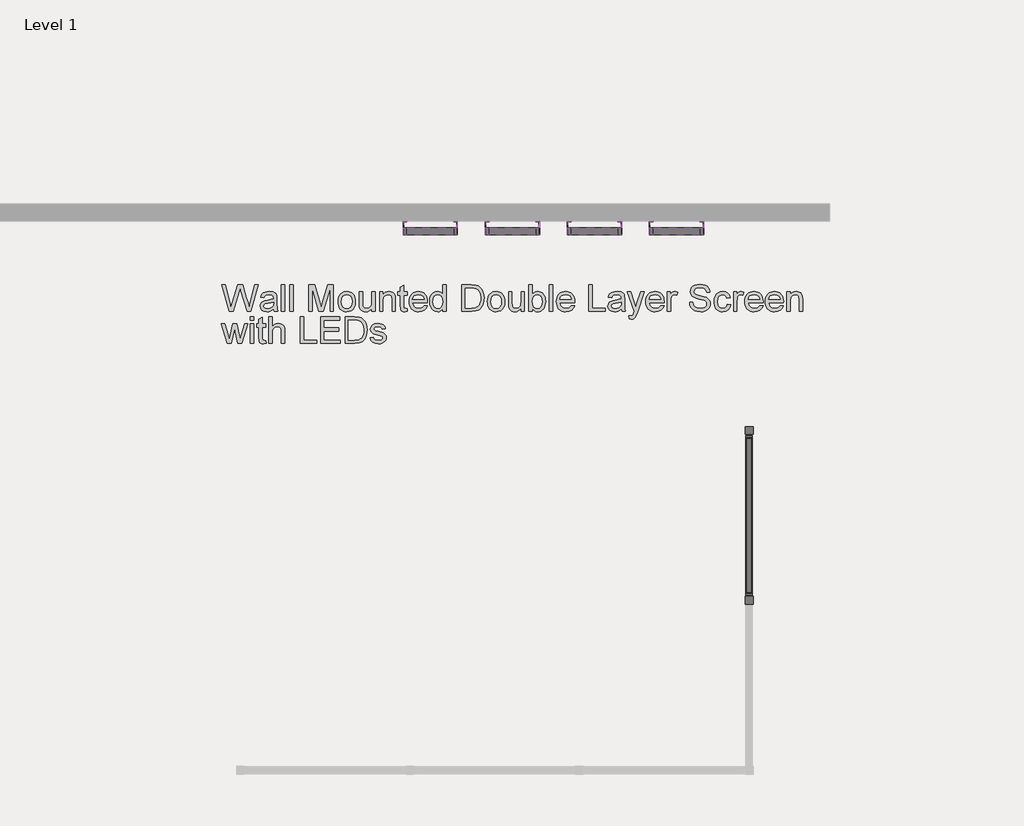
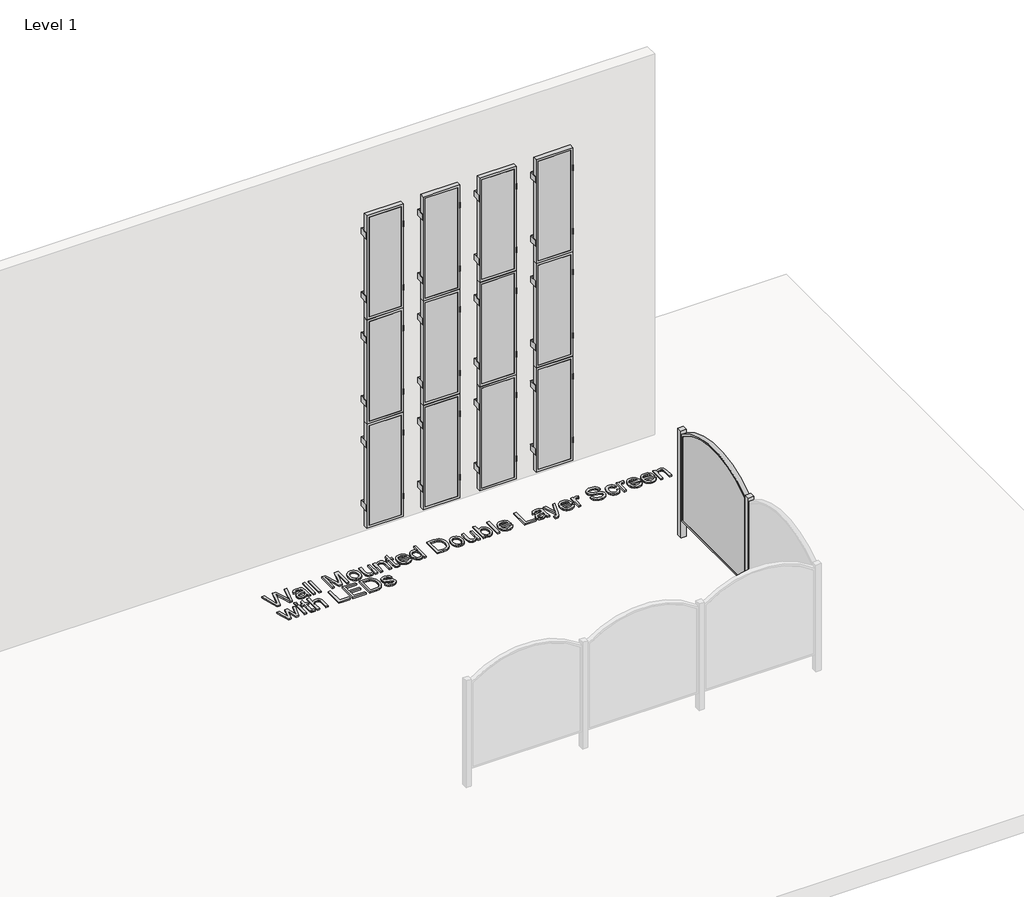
# One storey, part 4 of 4: 14 proxies.
"""IFC4 building model written with IfcOpenShell, lengths in millimetres."""

from ifc_helpers import new_model, si_unit, origin, origin_with_axes, place, context, project, spatial, polyline, outline, extrude, transform, mapped, element, save
from components import post_mounted_36181113, wall_mount_double_layer_2x6_20bcc1c5

model = new_model("IFC4")

# Units and contexts
model_context = context("Model", 3, world=origin())
ifc_project = project(units=[si_unit("LENGTHUNIT", "METRE", prefix="MILLI")], contexts=[model_context])

# Site, building, storey
site = spatial("IfcSite", under=ifc_project)
building = spatial("IfcBuilding", under=site)
storey = spatial("IfcBuildingStorey", under=building, Name="Level 1", Elevation=0.0)

# Proxies
placement = place(None, origin())
element("IfcBuildingElementProxy", 1, Name="12\" Arial", ObjectType="12\" Arial", at=placement, inside=storey, context=model_context, shape_type="SweptSolid", body=[
    extrude(outline(polyline([(1992.5195931, -5129.4015724), (1909.4625999, -4824.8344783), (1948.7232018, -4824.8344783), (1996.9066679, -5025.0040626), (2011.778108, -5086.7948964), (2027.690549, -5032.1423538), (2088.0685959, -4824.8344783), (2144.6544257, -4824.8344783), (2188.5251741, -4975.1103809), (2207.3189566, -5030.8782814), (2221.1679852, -5086.7948964), (2235.5932821, -5026.7886354), (2284.2228914, -4824.8344783), (2323.4834934, -4824.8344783), (2240.352143, -5129.4015724), (2199.6787542, -5129.4015724), (2126.6599831, -4894.4328181), (2116.4730466, -4861.6412926), (2105.0220377, -4901.1249662), (2038.4723431, -5129.4015724), (1992.5195931, -5129.4015724)])), origin_with_axes(), (0.0, 0.0, 1.0), 25.4),
    extrude(outline(polyline([(2499.5613446, -5100.8484073), (2481.3717144, -5116.4448301), (2462.6429945, -5126.6503559), (2442.9476309, -5132.2829139), (2421.8580699, -5134.1604332), (2390.0424826, -5129.6432333), (2366.5734912, -5116.0916334), (2352.101721, -5095.5132781), (2347.2777976, -5069.9158118), (2349.099549, -5054.1334959), (2354.5648033, -5039.8011455), (2362.9950509, -5027.5322074), (2373.7117824, -5017.9401285), (2400.3688389, -5005.4481188), (2433.3090788, -4999.7226143), (2472.2350734, -4993.6996811), (2499.338273, -4986.635747), (2499.5613446, -4978.1590261), (2496.9402533, -4961.1684058), (2489.0769793, -4950.0520043), (2471.4915014, -4941.798355), (2446.9908037, -4939.0471386), (2424.3118575, -4940.8781846), (2408.4737738, -4946.3713228), (2397.6733904, -4956.5303754), (2390.1075452, -4972.3591645), (2352.0366584, -4967.6003036), (2358.6451546, -4946.7802874), (2368.5067784, -4930.4217033), (2382.5417, -4917.9111043), (2401.6700899, -4908.6350435), (2425.0647242, -4902.8909497), (2451.898379, -4900.9762518), (2477.6352651, -4902.6678781), (2498.037022, -4907.7427571), (2513.4196679, -4915.3736648), (2524.0992209, -4924.7333774), (2531.1817442, -4936.3052168), (2535.7733014, -4950.5725047), (2537.6322314, -4983.8845306), (2537.6322314, -5031.2500674), (2539.5655186, -5097.3907975), (2547.1499531, -5129.4015724), (2509.0790663, -5129.4015724), (2502.9817759, -5116.1659906), (2499.5613446, -5100.8484073)]), holes=[polyline([(2499.5613446, -5024.7066338), (2438.1422968, -5036.3807143), (2405.3879499, -5042.5523619), (2390.5536884, -5052.590584), (2385.3486843, -5067.2389526), (2388.1835526, -5078.5598364), (2396.6881575, -5087.8358972), (2410.6766058, -5094.0261341), (2429.9630048, -5096.0895464), (2450.411235, -5093.8123572), (2468.4800347, -5086.9807894), (2483.1284033, -5076.9146833), (2493.3153398, -5064.9338793), (2497.8325397, -5052.590584), (2499.338273, -5035.4884279), (2499.5613446, -5024.7066338)])]), origin_with_axes(), (0.0, 0.0, 1.0), 25.4),
    extrude(outline(polyline([(2589.9797007, -5129.4015724), (2589.9797007, -4824.8344783), (2628.0505874, -4824.8344783), (2628.0505874, -5129.4015724), (2589.9797007, -5129.4015724)])), origin_with_axes(), (0.0, 0.0, 1.0), 25.4),
    extrude(outline(polyline([(2685.1569176, -5129.4015724), (2685.1569176, -4824.8344783), (2723.2278043, -4824.8344783), (2723.2278043, -5129.4015724), (2685.1569176, -5129.4015724)])), origin_with_axes(), (0.0, 0.0, 1.0), 25.4),
    extrude(outline(polyline([(2904.0645164, -5129.4015724), (2904.0645164, -4824.8344783), (2969.5732103, -4824.8344783), (3031.8845444, -5039.5037167), (3044.4509114, -5084.3411087), (3058.0582791, -5035.7858567), (3119.3286125, -4824.8344783), (3184.8373063, -4824.8344783), (3184.8373063, -5129.4015724), (3146.7664195, -5129.4015724), (3146.7664195, -4862.905365), (3070.25286, -5129.4015724), (3018.6489627, -5129.4015724), (2942.1354032, -4862.905365), (2942.1354032, -5129.4015724), (2904.0645164, -5129.4015724)])), origin_with_axes(), (0.0, 0.0, 1.0), 25.4),
    extrude(outline(polyline([(3237.1847756, -5017.5683425), (3239.2435406, -4988.6015655), (3245.4198355, -4963.6407827), (3255.7136605, -4942.6859941), (3270.1250155, -4925.7371996), (3284.6339643, -4914.904285), (3300.6486464, -4907.1664888), (3318.1690618, -4902.523811), (3337.1952105, -4900.9762518), (3358.198796, -4902.8607421), (3377.1900898, -4908.514213), (3394.1690919, -4917.9366646), (3409.1358022, -4931.1280967), (3421.3512961, -4947.6423662), (3430.0766488, -4967.03333), (3435.3118605, -4989.3009879), (3437.0569311, -5014.4453401), (3433.9711072, -5052.9066021), (3424.7136357, -5082.1847499), (3409.5540614, -5104.1108295), (3388.7619292, -5120.5158869), (3364.0660439, -5130.7492966), (3337.1952105, -5134.1604332), (3315.8849015, -5132.2829139), (3296.7170094, -5126.6503559), (3279.6915341, -5117.2627593), (3264.8084756, -5104.1201241), (3252.7231069, -5087.4455219), (3244.0907006, -5067.4620242), (3238.9112568, -5044.1696311), (3237.1847756, -5017.5683425)]), holes=[polyline([(3275.2556623, -5017.4939853), (3279.6613265, -5051.9492532), (3292.8783189, -5076.4964241), (3312.7688701, -5091.1912658), (3337.1952105, -5096.0895464), (3361.5100151, -5091.1633819), (3381.3633877, -5076.3848883), (3394.5803802, -5051.5124046), (3398.9860443, -5016.3042701), (3394.5524962, -4982.8528244), (3381.2518519, -4958.6402609), (3361.3705954, -4943.9454192), (3337.1952105, -4939.0471386), (3312.7688701, -4943.9268299), (3292.8783189, -4958.5659037), (3279.6613265, -4983.0573067), (3275.2556623, -5017.4939853)])]), origin_with_axes(), (0.0, 0.0, 1.0), 25.4),
    extrude(outline(polyline([(3622.652504, -5129.4015724), (3622.652504, -5090.9588996), (3608.8778326, -5109.8595705), (3592.8352665, -5123.3600498), (3574.5248058, -5131.4603374), (3553.9464506, -5134.1604332), (3535.4036236, -5132.2643246), (3518.1434584, -5126.5759987), (3503.6623936, -5118.0249206), (3493.4568678, -5107.5405553), (3486.5881214, -5094.8068847), (3482.1173947, -5079.5078907), (3479.8866787, -5044.1138632), (3479.8866787, -4905.7351126), (3517.9575654, -4905.7351126), (3517.9575654, -5026.1937778), (3520.2626386, -5065.0082365), (3525.8115447, -5077.9556841), (3535.3199718, -5087.7987186), (3548.1558836, -5094.0168395), (3563.6872438, -5096.0895464), (3580.1108906, -5093.9703662), (3595.4749471, -5087.6128256), (3608.1435552, -5077.6024874), (3616.4808563, -5064.5249147), (3621.1095921, -5046.614124), (3622.652504, -5022.1041317), (3622.652504, -4905.7351126), (3660.7233908, -4905.7351126), (3660.7233908, -5129.4015724), (3622.652504, -5129.4015724)])), origin_with_axes(), (0.0, 0.0, 1.0), 25.4),
    extrude(outline(polyline([(3713.0708601, -5129.4015724), (3713.0708601, -4905.7351126), (3751.1417468, -4905.7351126), (3751.1417468, -4936.9651369), (3764.3680339, -4921.2199997), (3780.2525909, -4909.9734731), (3798.7954178, -4903.2255571), (3819.9965147, -4900.9762518), (3838.7624132, -4902.7887086), (3855.9482212, -4908.2260789), (3870.2805716, -4916.6098533), (3880.4860974, -4927.2615223), (3891.8999277, -4955.2570083), (3893.9075722, -4992.0638227), (3893.9075722, -5129.4015724), (3855.8366854, -5129.4015724), (3855.8366854, -4997.1944695), (3851.4496106, -4963.5106576), (3845.380204, -4953.4817301), (3835.9461342, -4945.702108), (3823.8537944, -4940.7108809), (3809.8095782, -4939.0471386), (3787.5117126, -4942.7835879), (3768.5041532, -4953.9929359), (3760.9081004, -4963.1435189), (3755.4823484, -4975.6494706), (3751.1417468, -5010.72748), (3751.1417468, -5129.4015724), (3713.0708601, -5129.4015724)])), origin_with_axes(), (0.0, 0.0, 1.0), 25.4),
    extrude(outline(polyline([(4027.1556758, -5097.6510477), (4031.9145367, -5130.5169304), (4003.4357288, -5134.1604332), (3985.1624467, -5132.5803427), (3971.5364897, -5127.8400711), (3961.9072322, -5120.5344762), (3955.6240487, -5111.2584154), (3952.1664389, -5095.3273851), (3951.0139023, -5068.0568818), (3951.0139023, -4943.8059994), (3922.4607372, -4943.8059994), (3922.4607372, -4905.7351126), (3951.0139023, -4905.7351126), (3951.0139023, -4851.3799989), (3989.0847891, -4828.9984815), (3989.0847891, -4905.7351126), (4027.1556758, -4905.7351126), (4027.1556758, -4943.8059994), (3989.0847891, -4943.8059994), (3989.0847891, -5066.9415238), (3991.0924335, -5086.5718248), (3997.5986885, -5093.524223), (4010.5740201, -5096.0895464), (4027.1556758, -5097.6510477)])), origin_with_axes(), (0.0, 0.0, 1.0), 25.4),
    extrude(outline(polyline([(4221.8228272, -5062.7775205), (4259.150142, -5067.5363814), (4245.7007833, -5095.6619925), (4224.2394363, -5116.686491), (4195.2494226, -5129.7919477), (4159.2140643, -5134.1604332), (4135.5917111, -5132.2759429), (4114.5439759, -5126.622472), (4096.0708589, -5117.2000205), (4080.1723599, -5104.0085883), (4067.3875687, -5087.4153142), (4058.255575, -5067.7873369), (4052.7763788, -5045.1246563), (4050.94998, -5019.4272725), (4052.7949681, -4992.8585152), (4058.3299322, -4969.4406443), (4067.5548724, -4949.1736598), (4080.4697887, -4932.0575617), (4096.3264618, -4918.4594886), (4114.3766722, -4908.7465793), (4134.6204201, -4902.9188337), (4157.0577054, -4900.9762518), (4178.7723317, -4902.9141863), (4198.4096037, -4908.72799), (4215.9695214, -4918.4176627), (4231.4520847, -4931.9832045), (4244.0904852, -4949.062124), (4253.1179141, -4969.2919299), (4258.5343714, -4992.6726222), (4260.3398572, -5019.2042009), (4260.1167856, -5029.4654946), (4089.0208668, -5029.4654946), (4095.6107737, -5057.9628918), (4110.9190624, -5078.9130331), (4133.0124457, -5091.7954181), (4159.9576363, -5096.0895464), (4180.2199735, -5094.1004913), (4197.284951, -5088.133326), (4211.1525689, -5077.8162644), (4221.8228272, -5062.7775205)]), holes=[polyline([(4089.0208668, -4991.3946079), (4222.2689704, -4991.3946079), (4217.1197343, -4971.2809851), (4207.0257443, -4956.8928667), (4184.8301199, -4943.5085706), (4156.908991, -4939.0471386), (4131.2464621, -4942.6069895), (4110.026776, -4953.2865425), (4095.2761663, -4969.9332608), (4089.0208668, -4991.3946079)])]), origin_with_axes(), (0.0, 0.0, 1.0), 25.4),
    extrude(outline(polyline([(4436.4177085, -5129.4015724), (4436.4177085, -5093.4870444), (4425.0271148, -5111.281652), (4411.2292067, -5123.992086), (4395.0239843, -5131.6183464), (4376.4114475, -5134.1604332), (4351.7992141, -5130.4797518), (4329.2689823, -5119.4377075), (4310.1963603, -5101.8057562), (4295.9569563, -5078.3553541), (4287.0898602, -5050.0345553), (4284.1341614, -5017.7914141), (4286.8574939, -4985.9479429), (4295.0274913, -4957.1902955), (4308.6348591, -4933.1543304), (4327.6703024, -4915.4759059), (4350.6931507, -4904.6011653), (4376.2627331, -4900.9762518), (4394.8892119, -4903.5694592), (4411.3593318, -4911.3490813), (4425.3198963, -4923.2741174), (4436.4177085, -4938.3035666), (4436.4177085, -4824.8344783), (4474.4885952, -4824.8344783), (4474.4885952, -5129.4015724), (4436.4177085, -5129.4015724)]), holes=[polyline([(4322.2050482, -5017.6426997), (4326.4991765, -5052.0793783), (4339.3815616, -5076.5707813), (4358.1009868, -5091.2098551), (4379.9062359, -5096.0895464), (4401.7021904, -5091.4329267), (4419.9475885, -5077.4630677), (4432.3001785, -5053.919719), (4436.4177085, -5020.5426305), (4432.2258213, -4984.0518343), (4419.6501597, -4958.7517967), (4400.9400291, -4943.9733031), (4378.3447347, -4939.0471386), (4356.316414, -4943.7781155), (4338.2662035, -4957.9710461), (4326.220337, -4982.3509133), (4322.2050482, -5017.6426997)])]), origin_with_axes(), (0.0, 0.0, 1.0), 25.4),
    extrude(outline(polyline([(4655.3253073, -5129.4015724), (4655.3253073, -4824.8344783), (4760.3920319, -4824.8344783), (4814.7471456, -4829.2215531), (4839.0247717, -4837.6796847), (4859.5101805, -4851.0082129), (4880.5718575, -4874.2076596), (4895.5734228, -4903.0582534), (4904.5520548, -4937.0023155), (4907.5449321, -4975.4821669), (4905.5186984, -5008.1714513), (4899.4399972, -5036.9383933), (4890.1825257, -5061.4297963), (4878.619981, -5081.2924635), (4865.3100421, -5096.9725382), (4850.810388, -5108.9161636), (4834.1636697, -5117.7739651), (4814.4125382, -5124.1965683), (4765.4483216, -5129.4015724), (4655.3253073, -5129.4015724)]), holes=[polyline([(4693.3961941, -5091.3306856), (4760.7638179, -5091.3306856), (4788.6291789, -5089.9550774), (4809.7652132, -5085.8282527), (4825.7148327, -5079.1918726), (4838.0209494, -5070.2875978), (4851.2472365, -5053.8081832), (4861.1832175, -5032.4769612), (4867.4013384, -5006.2009854), (4869.4740453, -4974.8873093), (4865.4122833, -4933.3959913), (4853.226997, -4902.7608246), (4835.2232598, -4881.7177368), (4813.7061448, -4869.0026555), (4791.8079492, -4864.4296877), (4759.7228171, -4862.905365), (4693.3961941, -4862.905365), (4693.3961941, -5091.3306856)])]), origin_with_axes(), (0.0, 0.0, 1.0), 25.4),
    extrude(outline(polyline([(4945.6158189, -5017.5683425), (4947.6745839, -4988.6015655), (4953.8508788, -4963.6407827), (4964.1447038, -4942.6859941), (4978.5560588, -4925.7371996), (4993.0650076, -4914.904285), (5009.0796897, -4907.1664888), (5026.6001051, -4902.523811), (5045.6262538, -4900.9762518), (5066.6298393, -4902.8607421), (5085.6211331, -4908.514213), (5102.6001352, -4917.9366646), (5117.5668455, -4931.1280967), (5129.7823394, -4947.6423662), (5138.5076921, -4967.03333), (5143.7429038, -4989.3009879), (5145.4879743, -5014.4453401), (5142.4021505, -5052.9066021), (5133.144679, -5082.1847499), (5117.9851047, -5104.1108295), (5097.1929725, -5120.5158869), (5072.4970872, -5130.7492966), (5045.6262538, -5134.1604332), (5024.3159448, -5132.2829139), (5005.1480527, -5126.6503559), (4988.1225774, -5117.2627593), (4973.2395189, -5104.1201241), (4961.1541501, -5087.4455219), (4952.5217439, -5067.4620242), (4947.3423001, -5044.1696311), (4945.6158189, -5017.5683425)]), holes=[polyline([(4983.6867056, -5017.4939853), (4988.0923698, -5051.9492532), (5001.3093622, -5076.4964241), (5021.1999134, -5091.1912658), (5045.6262538, -5096.0895464), (5069.9410584, -5091.1633819), (5089.794431, -5076.3848883), (5103.0114234, -5051.5124046), (5107.4170876, -5016.3042701), (5102.9835395, -4982.8528244), (5089.6828952, -4958.6402609), (5069.8016387, -4943.9454192), (5045.6262538, -4939.0471386), (5021.1999134, -4943.9268299), (5001.3093622, -4958.5659037), (4988.0923698, -4983.0573067), (4983.6867056, -5017.4939853)])]), origin_with_axes(), (0.0, 0.0, 1.0), 25.4),
    extrude(outline(polyline([(5331.0835473, -5129.4015724), (5331.0835473, -5090.9588996), (5317.3088759, -5109.8595705), (5301.2663098, -5123.3600498), (5282.9558491, -5131.4603374), (5262.3774938, -5134.1604332), (5243.8346669, -5132.2643246), (5226.5745017, -5126.5759987), (5212.0934369, -5118.0249206), (5201.8879111, -5107.5405553), (5195.0191647, -5094.8068847), (5190.548438, -5079.5078907), (5188.3177219, -5044.1138632), (5188.3177219, -4905.7351126), (5226.3886087, -4905.7351126), (5226.3886087, -5026.1937778), (5228.6936819, -5065.0082365), (5234.242588, -5077.9556841), (5243.7510151, -5087.7987186), (5256.5869268, -5094.0168395), (5272.1182871, -5096.0895464), (5288.5419338, -5093.9703662), (5303.9059904, -5087.6128256), (5316.5745985, -5077.6024874), (5324.9118996, -5064.5249147), (5329.5406354, -5046.614124), (5331.0835473, -5022.1041317), (5331.0835473, -4905.7351126), (5369.1544341, -4905.7351126), (5369.1544341, -5129.4015724), (5331.0835473, -5129.4015724)])), origin_with_axes(), (0.0, 0.0, 1.0), 25.4),
    extrude(outline(polyline([(5459.5727901, -5129.4015724), (5421.5019033, -5129.4015724), (5421.5019033, -4824.8344783), (5459.5727901, -4824.8344783), (5459.5727901, -4937.7830662), (5472.0926838, -4921.6800849), (5486.2298466, -4910.1779554), (5501.9842785, -4903.2766777), (5519.3559795, -4900.9762518), (5538.9676911, -4903.0489588), (5557.5012234, -4909.2670797), (5573.8969862, -4919.2402392), (5587.0953893, -4932.5780621), (5597.4403349, -4949.1504232), (5605.2757249, -4968.8271974), (5610.2111841, -4990.7904556), (5611.8563371, -5014.2222685), (5610.1530925, -5041.2604056), (5605.0433586, -5065.0454151), (5596.5271355, -5085.5772972), (5584.6044231, -5102.8560517), (5570.2929856, -5116.5517186), (5554.6105872, -5126.3343378), (5537.557228, -5132.2039094), (5519.1329079, -5134.1604332), (5501.1895859, -5131.6369357), (5485.2817922, -5124.0664432), (5471.409527, -5111.4489557), (5459.5727901, -5093.7844732), (5459.5727901, -5129.4015724)]), holes=[polyline([(5459.5727901, -5016.0068413), (5462.1752921, -5047.757366), (5469.9827982, -5069.246597), (5479.2077384, -5080.9903874), (5489.9291173, -5089.3788091), (5502.1469348, -5094.4118621), (5515.861191, -5096.0895464), (5537.8337438, -5091.1447926), (5556.608937, -5076.3105311), (5569.491322, -5051.6797083), (5573.7854504, -5017.3452709), (5569.6679204, -4982.5089224), (5557.3153304, -4958.1569391), (5539.1257002, -4943.8245887), (5517.4970494, -4939.0471386), (5495.5244966, -4943.9918924), (5476.7493035, -4958.8261539), (5463.8669184, -4983.0108335), (5459.5727901, -5016.0068413)])]), origin_with_axes(), (0.0, 0.0, 1.0), 25.4),
    extrude(outline(polyline([(5654.6860847, -5129.4015724), (5654.6860847, -4824.8344783), (5692.7569715, -4824.8344783), (5692.7569715, -5129.4015724), (5654.6860847, -5129.4015724)])), origin_with_axes(), (0.0, 0.0, 1.0), 25.4),
    extrude(outline(polyline([(5906.4595663, -5062.7775205), (5943.7868811, -5067.5363814), (5930.3375224, -5095.6619925), (5908.8761753, -5116.686491), (5879.8861617, -5129.7919477), (5843.8508033, -5134.1604332), (5820.2284501, -5132.2759429), (5799.180715, -5126.622472), (5780.707598, -5117.2000205), (5764.809099, -5104.0085883), (5752.0243078, -5087.4153142), (5742.8923141, -5067.7873369), (5737.4131178, -5045.1246563), (5735.5867191, -5019.4272725), (5737.4317071, -4992.8585152), (5742.9666713, -4969.4406443), (5752.1916115, -4949.1736598), (5765.1065278, -4932.0575617), (5780.9632008, -4918.4594886), (5799.0134113, -4908.7465793), (5819.2571592, -4902.9188337), (5841.6944445, -4900.9762518), (5863.4090708, -4902.9141863), (5883.0463427, -4908.72799), (5900.6062604, -4918.4176627), (5916.0888238, -4931.9832045), (5928.7272243, -4949.062124), (5937.7546532, -4969.2919299), (5943.1711105, -4992.6726222), (5944.9765963, -5019.2042009), (5944.7535247, -5029.4654946), (5773.6576059, -5029.4654946), (5780.2475128, -5057.9628918), (5795.5558015, -5078.9130331), (5817.6491847, -5091.7954181), (5844.5943753, -5096.0895464), (5864.8567125, -5094.1004913), (5881.9216901, -5088.133326), (5895.789308, -5077.8162644), (5906.4595663, -5062.7775205)]), holes=[polyline([(5773.6576059, -4991.3946079), (5906.9057095, -4991.3946079), (5901.7564734, -4971.2809851), (5891.6624834, -4956.8928667), (5869.466859, -4943.5085706), (5841.5457301, -4939.0471386), (5815.8832012, -4942.6069895), (5794.6635151, -4953.2865425), (5779.9129054, -4969.9332608), (5773.6576059, -4991.3946079)])]), origin_with_axes(), (0.0, 0.0, 1.0), 25.4),
    extrude(outline(polyline([(6106.777865, -5129.4015724), (6106.777865, -4824.8344783), (6144.8487518, -4824.8344783), (6144.8487518, -5091.3306856), (6297.1322988, -5091.3306856), (6297.1322988, -5129.4015724), (6106.777865, -5129.4015724)])), origin_with_axes(), (0.0, 0.0, 1.0), 25.4),
    extrude(outline(polyline([(6477.9690109, -5100.8484073), (6459.7793807, -5116.4448301), (6441.0506607, -5126.6503559), (6421.3552972, -5132.2829139), (6400.2657362, -5134.1604332), (6368.4501489, -5129.6432333), (6344.9811574, -5116.0916334), (6330.5093873, -5095.5132781), (6325.6854639, -5069.9158118), (6327.5072153, -5054.1334959), (6332.9724695, -5039.8011455), (6341.4027172, -5027.5322074), (6352.1194487, -5017.9401285), (6378.7765052, -5005.4481188), (6411.7167451, -4999.7226143), (6450.6427396, -4993.6996811), (6477.7459393, -4986.635747), (6477.9690109, -4978.1590261), (6475.3479196, -4961.1684058), (6467.4846456, -4950.0520043), (6449.8991676, -4941.798355), (6425.39847, -4939.0471386), (6402.7195238, -4940.8781846), (6386.88144, -4946.3713228), (6376.0810566, -4956.5303754), (6368.5152115, -4972.3591645), (6330.4443247, -4967.6003036), (6337.0528209, -4946.7802874), (6346.9144447, -4930.4217033), (6360.9493663, -4917.9111043), (6380.0777562, -4908.6350435), (6403.4723904, -4902.8909497), (6430.3060452, -4900.9762518), (6456.0429313, -4902.6678781), (6476.4446883, -4907.7427571), (6491.8273342, -4915.3736648), (6502.5068871, -4924.7333774), (6509.5894105, -4936.3052168), (6514.1809676, -4950.5725047), (6516.0398977, -4983.8845306), (6516.0398977, -5031.2500674), (6517.9731849, -5097.3907975), (6525.5576193, -5129.4015724), (6487.4867326, -5129.4015724), (6481.3894421, -5116.1659906), (6477.9690109, -5100.8484073)]), holes=[polyline([(6477.9690109, -5024.7066338), (6416.5499631, -5036.3807143), (6383.7956162, -5042.5523619), (6368.9613547, -5052.590584), (6363.7563506, -5067.2389526), (6366.5912189, -5078.5598364), (6375.0958237, -5087.8358972), (6389.0842721, -5094.0261341), (6408.370671, -5096.0895464), (6428.8189012, -5093.8123572), (6446.887701, -5086.9807894), (6461.5360695, -5076.9146833), (6471.723006, -5064.9338793), (6476.240206, -5052.590584), (6477.7459393, -5035.4884279), (6477.9690109, -5024.7066338)])]), origin_with_axes(), (0.0, 0.0, 1.0), 25.4),
    extrude(outline(polyline([(6568.3873669, -5215.0610676), (6563.6285061, -5178.4029676), (6582.9613783, -5181.7490416), (6601.0301781, -5177.5478598), (6612.109401, -5165.8366007), (6622.5194091, -5137.803936), (6625.4936971, -5128.5836431), (6544.5930627, -4905.7351126), (6584.7459511, -4905.7351126), (6627.6500559, -5029.9116378), (6642.5958532, -5079.5822479), (6657.5416506, -5035.7114995), (6701.6354706, -4905.7351126), (6741.4909302, -4905.7351126), (6663.638941, -5134.7552908), (6643.4137825, -5184.4259009), (6633.0595423, -5200.2825739), (6621.3296938, -5211.2688503), (6607.7037368, -5217.6821589), (6591.6611708, -5219.8199284), (6568.3873669, -5215.0610676)])), origin_with_axes(), (0.0, 0.0, 1.0), 25.4),
    extrude(outline(polyline([(6929.6146479, -5062.7775205), (6966.9419627, -5067.5363814), (6953.492604, -5095.6619925), (6932.031257, -5116.686491), (6903.0412433, -5129.7919477), (6867.005885, -5134.1604332), (6843.3835318, -5132.2759429), (6822.3357966, -5126.622472), (6803.8626796, -5117.2000205), (6787.9641806, -5104.0085883), (6775.1793894, -5087.4153142), (6766.0473957, -5067.7873369), (6760.5681995, -5045.1246563), (6758.7418007, -5019.4272725), (6760.5867888, -4992.8585152), (6766.1217529, -4969.4406443), (6775.3466931, -4949.1736598), (6788.2616094, -4932.0575617), (6804.1182825, -4918.4594886), (6822.1684929, -4908.7465793), (6842.4122408, -4902.9188337), (6864.8495261, -4900.9762518), (6886.5641524, -4902.9141863), (6906.2014244, -4908.72799), (6923.7613421, -4918.4176627), (6939.2439054, -4931.9832045), (6951.8823059, -4949.062124), (6960.9097348, -4969.2919299), (6966.3261921, -4992.6726222), (6968.1316779, -5019.2042009), (6967.9086063, -5029.4654946), (6796.8126875, -5029.4654946), (6803.4025944, -5057.9628918), (6818.7108831, -5078.9130331), (6840.8042664, -5091.7954181), (6867.749457, -5096.0895464), (6888.0117942, -5094.1004913), (6905.0767717, -5088.133326), (6918.9443896, -5077.8162644), (6929.6146479, -5062.7775205)]), holes=[polyline([(6796.8126875, -4991.3946079), (6930.0607912, -4991.3946079), (6924.911555, -4971.2809851), (6914.817565, -4956.8928667), (6892.6219406, -4943.5085706), (6864.7008117, -4939.0471386), (6839.0382828, -4942.6069895), (6817.8185967, -4953.2865425), (6803.067987, -4969.9332608), (6796.8126875, -4991.3946079)])]), origin_with_axes(), (0.0, 0.0, 1.0), 25.4),
    extrude(outline(polyline([(7006.2025647, -5129.4015724), (7006.2025647, -4905.7351126), (7039.5145906, -4905.7351126), (7039.5145906, -4938.824067), (7051.8207073, -4919.6399092), (7063.1601804, -4908.3376147), (7074.5368321, -4902.8165925), (7086.9544846, -4900.9762518), (7105.9155708, -4903.9133612), (7125.1740858, -4912.7246895), (7112.4590045, -4946.8546446), (7099.0747083, -4940.9990151), (7085.6904122, -4939.0471386), (7074.3230552, -4940.9246579), (7064.1640026, -4946.5572158), (7055.9568266, -4955.5172585), (7050.4450991, -4967.377232), (7045.8163633, -4988.6433914), (7044.2734514, -5011.842838), (7044.2734514, -5129.4015724), (7006.2025647, -5129.4015724)])), origin_with_axes(), (0.0, 0.0, 1.0), 25.4),
    extrude(outline(polyline([(7258.4221894, -5024.7066338), (7296.4930762, -5024.7066338), (7300.8615617, -5045.8333734), (7308.7620143, -5062.8146991), (7321.0867203, -5076.2919418), (7338.7279662, -5086.9064322), (7360.2915544, -5093.7937679), (7384.3832874, -5096.0895464), (7405.5936789, -5094.3514469), (7424.1643898, -5089.1371482), (7439.2124283, -5080.8834989), (7449.8548026, -5070.0273476), (7456.1844594, -5057.5632218), (7458.2943449, -5044.4856492), (7456.7142544, -5031.7426839), (7451.9739829, -5020.7285235), (7442.3447254, -5011.3316323), (7426.097677, -5003.4404744), (7370.6643839, -4988.9036416), (7334.2758288, -4979.2836788), (7310.9927303, -4970.1284485), (7292.0409388, -4957.3204206), (7278.6101694, -4941.798355), (7270.6074757, -4923.8968589), (7267.9399111, -4903.9505398), (7271.2395119, -4881.6526743), (7281.1383143, -4860.860542), (7297.376068, -4843.2378855), (7319.6925228, -4830.4484469), (7346.4797044, -4822.6688248), (7376.1296382, -4820.0756174), (7408.2519489, -4822.7896553), (7436.3589707, -4830.9317687), (7459.4468815, -4844.3346542), (7476.5118591, -4862.8310078), (7487.3122425, -4885.2682932), (7491.6063708, -4910.4939735), (7453.5354841, -4910.4939735), (7446.5459072, -4887.7778487), (7431.9718959, -4871.3820859), (7409.2000032, -4861.4553996), (7377.6167822, -4858.1465042), (7345.2899892, -4861.418221), (7323.1129541, -4871.2333715), (7310.2863369, -4885.6772578), (7306.0107979, -4902.8351818), (7309.0408538, -4917.4649611), (7318.1310216, -4929.2319881), (7339.6202526, -4939.753532), (7380.2936414, -4950.4981475), (7422.2682812, -4960.7036733), (7447.6612652, -4969.6079481), (7469.3642732, -4983.4197981), (7484.5052582, -5000.4661863), (7493.4002383, -5020.5612198), (7496.3652317, -5043.5190055), (7492.9540951, -5066.987997), (7482.7206854, -5089.062791), (7466.0832617, -5108.0610558), (7443.4600834, -5122.3004597), (7416.2546426, -5131.1954398), (7385.8704314, -5134.1604332), (7348.5710006, -5130.9630736), (7317.8707714, -5121.3709947), (7293.416547, -5105.3470179), (7274.8551308, -5082.8539647), (7262.9393894, -5055.4533363), (7258.4221894, -5024.7066338)])), origin_with_axes(), (0.0, 0.0, 1.0), 25.4),
    extrude(outline(polyline([(7691.4785263, -5048.500938), (7729.5494131, -5053.2597988), (7718.9349227, -5087.1202091), (7698.9886036, -5112.7083808), (7671.5879751, -5128.7974201), (7638.6105566, -5134.1604332), (7617.2584217, -5132.2898849), (7598.1137662, -5126.6782399), (7581.1765901, -5117.3254982), (7566.4468933, -5104.2316599), (7554.5241809, -5087.6430332), (7546.0079578, -5067.8059262), (7540.8982239, -5044.7203391), (7539.1949793, -5018.3862717), (7542.1042048, -4984.5072721), (7550.8318812, -4955.1454725), (7565.5174283, -4931.4348201), (7586.3002659, -4914.5092623), (7611.1634549, -4904.3595044), (7638.0900562, -4900.9762518), (7670.2588402, -4905.6235768), (7695.977137, -4919.565552), (7714.4270174, -4942.0586052), (7724.7905522, -4972.3591645), (7686.7196655, -4977.1180253), (7679.8137405, -4960.5084856), (7669.0598303, -4948.6020389), (7655.0527926, -4941.4358636), (7638.387485, -4939.0471386), (7613.7845462, -4943.7502315), (7594.2564864, -4957.8595103), (7581.5135211, -4982.1371364), (7577.265866, -5017.3452709), (7581.4205746, -5053.0274326), (7593.8847004, -5077.3887105), (7613.0595635, -5091.4143374), (7637.3464842, -5096.0895464), (7657.060437, -5093.1710263), (7673.2238335, -5084.4154659), (7684.9815659, -5069.5997937), (7691.4785263, -5048.500938)])), origin_with_axes(), (0.0, 0.0, 1.0), 25.4),
    extrude(outline(polyline([(7762.861439, -5129.4015724), (7762.861439, -4905.7351126), (7796.1734649, -4905.7351126), (7796.1734649, -4938.824067), (7808.4795816, -4919.6399092), (7819.8190547, -4908.3376147), (7831.1957064, -4902.8165925), (7843.613359, -4900.9762518), (7862.5744451, -4903.9133612), (7881.8329601, -4912.7246895), (7869.1178788, -4946.8546446), (7855.7335827, -4940.9990151), (7842.3492865, -4939.0471386), (7830.9819295, -4940.9246579), (7820.8228769, -4946.5572158), (7812.6157009, -4955.5172585), (7807.1039734, -4967.377232), (7802.4752377, -4988.6433914), (7800.9323258, -5011.842838), (7800.9323258, -5129.4015724), (7762.861439, -5129.4015724)])), origin_with_axes(), (0.0, 0.0, 1.0), 25.4),
    extrude(outline(polyline([(8062.223529, -5062.7775205), (8099.5508438, -5067.5363814), (8086.1014851, -5095.6619925), (8064.640138, -5116.686491), (8035.6501244, -5129.7919477), (7999.614766, -5134.1604332), (7975.9924128, -5132.2759429), (7954.9446777, -5126.622472), (7936.4715607, -5117.2000205), (7920.5730617, -5104.0085883), (7907.7882705, -5087.4153142), (7898.6562768, -5067.7873369), (7893.1770805, -5045.1246563), (7891.3506818, -5019.4272725), (7893.1956698, -4992.8585152), (7898.730634, -4969.4406443), (7907.9555742, -4949.1736598), (7920.8704905, -4932.0575617), (7936.7271635, -4918.4594886), (7954.777374, -4908.7465793), (7975.0211219, -4902.9188337), (7997.4584072, -4900.9762518), (8019.1730335, -4902.9141863), (8038.8103054, -4908.72799), (8056.3702231, -4918.4176627), (8071.8527865, -4931.9832045), (8084.491187, -4949.062124), (8093.5186159, -4969.2919299), (8098.9350732, -4992.6726222), (8100.740559, -5019.2042009), (8100.5174874, -5029.4654946), (7929.4215686, -5029.4654946), (7936.0114755, -5057.9628918), (7951.3197642, -5078.9130331), (7973.4131474, -5091.7954181), (8000.358338, -5096.0895464), (8020.6206752, -5094.1004913), (8037.6856528, -5088.133326), (8051.5532707, -5077.8162644), (8062.223529, -5062.7775205)]), holes=[polyline([(7929.4215686, -4991.3946079), (8062.6696722, -4991.3946079), (8057.5204361, -4971.2809851), (8047.4264461, -4956.8928667), (8025.2308217, -4943.5085706), (7997.3096928, -4939.0471386), (7971.6471639, -4942.6069895), (7950.4274778, -4953.2865425), (7935.6768681, -4969.9332608), (7929.4215686, -4991.3946079)])]), origin_with_axes(), (0.0, 0.0, 1.0), 25.4),
    extrude(outline(polyline([(8295.4077104, -5062.7775205), (8332.7350252, -5067.5363814), (8319.2856665, -5095.6619925), (8297.8243194, -5116.686491), (8268.8343058, -5129.7919477), (8232.7989474, -5134.1604332), (8209.1765942, -5132.2759429), (8188.1288591, -5126.622472), (8169.655742, -5117.2000205), (8153.7572431, -5104.0085883), (8140.9724519, -5087.4153142), (8131.8404582, -5067.7873369), (8126.3612619, -5045.1246563), (8124.5348632, -5019.4272725), (8126.3798512, -4992.8585152), (8131.9148154, -4969.4406443), (8141.1397556, -4949.1736598), (8154.0546719, -4932.0575617), (8169.9113449, -4918.4594886), (8187.9615554, -4908.7465793), (8208.2053033, -4902.9188337), (8230.6425886, -4900.9762518), (8252.3572149, -4902.9141863), (8271.9944868, -4908.72799), (8289.5544045, -4918.4176627), (8305.0369679, -4931.9832045), (8317.6753684, -4949.062124), (8326.7027973, -4969.2919299), (8332.1192546, -4992.6726222), (8333.9247404, -5019.2042009), (8333.7016688, -5029.4654946), (8162.60575, -5029.4654946), (8169.1956569, -5057.9628918), (8184.5039456, -5078.9130331), (8206.5973288, -5091.7954181), (8233.5425194, -5096.0895464), (8253.8048566, -5094.1004913), (8270.8698342, -5088.133326), (8284.7374521, -5077.8162644), (8295.4077104, -5062.7775205)]), holes=[polyline([(8162.60575, -4991.3946079), (8295.8538536, -4991.3946079), (8290.7046175, -4971.2809851), (8280.6106275, -4956.8928667), (8258.4150031, -4943.5085706), (8230.4938742, -4939.0471386), (8204.8313453, -4942.6069895), (8183.6116592, -4953.2865425), (8168.8610495, -4969.9332608), (8162.60575, -4991.3946079)])]), origin_with_axes(), (0.0, 0.0, 1.0), 25.4),
    extrude(outline(polyline([(8371.9956271, -5129.4015724), (8371.9956271, -4905.7351126), (8410.0665139, -4905.7351126), (8410.0665139, -4936.9651369), (8423.292801, -4921.2199997), (8439.177358, -4909.9734731), (8457.7201849, -4903.2255571), (8478.9212817, -4900.9762518), (8497.6871803, -4902.7887086), (8514.8729883, -4908.2260789), (8529.2053387, -4916.6098533), (8539.4108645, -4927.2615223), (8550.8246948, -4955.2570083), (8552.8323392, -4992.0638227), (8552.8323392, -5129.4015724), (8514.7614525, -5129.4015724), (8514.7614525, -4997.1944695), (8510.3743776, -4963.5106576), (8504.3049711, -4953.4817301), (8494.8709013, -4945.702108), (8482.7785615, -4940.7108809), (8468.7343452, -4939.0471386), (8446.4364797, -4942.7835879), (8427.4289203, -4953.9929359), (8419.8328675, -4963.1435189), (8414.4071155, -4975.6494706), (8410.0665139, -5010.72748), (8410.0665139, -5129.4015724), (8371.9956271, -5129.4015724)])), origin_with_axes(), (0.0, 0.0, 1.0), 25.4),
    extrude(outline(polyline([(1970.3611472, -5495.4542367), (1902.3243086, -5271.787777), (1941.8823394, -5271.787777), (1980.4737265, -5402.2846642), (1991.9990926, -5448.9066291), (2001.4424571, -5403.9948798), (2032.151981, -5271.787777), (2077.5098735, -5271.787777), (2108.0706829, -5403.6230938), (2116.4730466, -5444.2964826), (2128.5189131, -5401.3923778), (2167.1846575, -5271.787777), (2206.8914027, -5271.787777), (2138.3340636, -5495.4542367), (2092.3069564, -5495.4542367), (2063.0845765, -5364.2881347), (2054.6078556, -5323.3916743), (2016.9087549, -5495.4542367), (1970.3611472, -5495.4542367)])), origin_with_axes(), (0.0, 0.0, 1.0), 25.4),
    extrude(outline(polyline([(2233.0651373, -5228.9580294), (2233.0651373, -5190.8871426), (2271.1360241, -5190.8871426), (2271.1360241, -5228.9580294), (2233.0651373, -5228.9580294)])), origin_with_axes(), (0.0, 0.0, 1.0), 25.4),
    extrude(outline(polyline([(2233.0651373, -5495.4542367), (2233.0651373, -5271.787777), (2271.1360241, -5271.787777), (2271.1360241, -5495.4542367), (2233.0651373, -5495.4542367)])), origin_with_axes(), (0.0, 0.0, 1.0), 25.4),
    extrude(outline(polyline([(2409.1429886, -5463.703712), (2413.9018494, -5496.5695947), (2385.4230416, -5500.2130975), (2367.1497595, -5498.633007), (2353.5238024, -5493.8927355), (2343.894545, -5486.5871405), (2337.6113615, -5477.3110797), (2334.1537517, -5461.3800495), (2333.0012151, -5434.1095461), (2333.0012151, -5309.8586637), (2304.44805, -5309.8586637), (2304.44805, -5271.787777), (2333.0012151, -5271.787777), (2333.0012151, -5217.4326633), (2371.0721018, -5195.0511459), (2371.0721018, -5271.787777), (2409.1429886, -5271.787777), (2409.1429886, -5309.8586637), (2371.0721018, -5309.8586637), (2371.0721018, -5432.9941881), (2373.0797462, -5452.6244891), (2379.5860013, -5459.5768874), (2392.5613328, -5462.1422108), (2409.1429886, -5463.703712)])), origin_with_axes(), (0.0, 0.0, 1.0), 25.4),
    extrude(outline(polyline([(2447.2138753, -5495.4542367), (2447.2138753, -5190.8871426), (2485.2847621, -5190.8871426), (2485.2847621, -5302.8690869), (2499.2685631, -5287.1890122), (2514.9718745, -5275.9889588), (2532.3946961, -5269.2689268), (2551.5370279, -5267.0289161), (2574.5319922, -5269.4734091), (2594.2924183, -5276.806888), (2609.8516626, -5288.4530846), (2620.2430814, -5303.8357305), (2626.0987109, -5324.9717648), (2628.0505874, -5353.8781266), (2628.0505874, -5495.4542367), (2589.9797007, -5495.4542367), (2589.9797007, -5357.8190582), (2586.9496447, -5333.9875754), (2577.859477, -5317.6661698), (2563.2111084, -5308.2413946), (2543.5064502, -5305.0998029), (2527.4174109, -5307.2189831), (2512.3136045, -5313.5765238), (2499.8030055, -5323.558978), (2491.4935883, -5336.5528988), (2486.8369687, -5353.8223587), (2485.2847621, -5376.63143), (2485.2847621, -5495.4542367), (2447.2138753, -5495.4542367)])), origin_with_axes(), (0.0, 0.0, 1.0), 25.4),
    extrude(outline(polyline([(2804.1284387, -5495.4542367), (2804.1284387, -5190.8871426), (2842.1993255, -5190.8871426), (2842.1993255, -5457.3833499), (2994.4828725, -5457.3833499), (2994.4828725, -5495.4542367), (2804.1284387, -5495.4542367)])), origin_with_axes(), (0.0, 0.0, 1.0), 25.4),
    extrude(outline(polyline([(3037.3126201, -5495.4542367), (3037.3126201, -5190.8871426), (3256.220219, -5190.8871426), (3256.220219, -5228.9580294), (3075.3835068, -5228.9580294), (3075.3835068, -5319.3763854), (3246.7024973, -5319.3763854), (3246.7024973, -5357.4472722), (3075.3835068, -5357.4472722), (3075.3835068, -5457.3833499), (3260.9790798, -5457.3833499), (3260.9790798, -5495.4542367), (3037.3126201, -5495.4542367)])), origin_with_axes(), (0.0, 0.0, 1.0), 25.4),
    extrude(outline(polyline([(3318.0854099, -5495.4542367), (3318.0854099, -5190.8871426), (3423.1521345, -5190.8871426), (3477.5072482, -5195.2742175), (3501.7848743, -5203.732349), (3522.2702831, -5217.0608773), (3543.3319602, -5240.2603239), (3558.3335254, -5269.1109178), (3567.3121574, -5303.0549799), (3570.3050347, -5341.5348312), (3568.278801, -5374.2241156), (3562.2000998, -5402.9910576), (3552.9426283, -5427.4824606), (3541.3800836, -5447.3451278), (3528.0701447, -5463.0252025), (3513.5704906, -5474.9688279), (3496.9237723, -5483.8266294), (3477.1726408, -5490.2492326), (3428.2084242, -5495.4542367), (3318.0854099, -5495.4542367)]), holes=[polyline([(3356.1562967, -5457.3833499), (3423.5239205, -5457.3833499), (3451.3892815, -5456.0077417), (3472.5253158, -5451.8809171), (3488.4749353, -5445.2445369), (3500.7810521, -5436.3402621), (3514.0073391, -5419.8608475), (3523.9433201, -5398.5296256), (3530.161441, -5372.2536498), (3532.234148, -5340.9399736), (3528.1723859, -5299.4486556), (3515.9870996, -5268.813489), (3497.9833624, -5247.7704012), (3476.4662474, -5235.0553198), (3454.5680518, -5230.482352), (3422.4829197, -5228.9580294), (3356.1562967, -5228.9580294), (3356.1562967, -5457.3833499)])]), origin_with_axes(), (0.0, 0.0, 1.0), 25.4),
    extrude(outline(polyline([(3603.6170606, -5428.8301849), (3641.6879474, -5424.071324), (3647.6922913, -5440.355551), (3659.3106039, -5452.3270603), (3676.6172424, -5459.6884232), (3699.6865639, -5462.1422108), (3722.4770459, -5459.8929055), (3738.5010227, -5453.1449895), (3747.9815658, -5443.3670176), (3751.1417468, -5432.0275445), (3747.9629765, -5422.3239298), (3738.4266655, -5414.9253883), (3699.2404207, -5404.069237), (3641.911019, -5385.4427583), (3627.4020702, -5376.0830456), (3616.8898209, -5363.6932771), (3610.5043963, -5349.0634978), (3608.3759215, -5332.9837532), (3610.0861371, -5318.2331435), (3615.2167839, -5304.6164811), (3623.3031295, -5292.6728557), (3633.8804413, -5282.9413571), (3658.0837101, -5271.6762412), (3690.838057, -5267.0289161), (3715.6175942, -5268.8971408), (3737.1625931, -5274.5018148), (3754.4878208, -5283.2945538), (3766.6080446, -5294.7269734), (3774.6386222, -5309.6448868), (3779.6949119, -5328.8941071), (3741.6240251, -5333.652968), (3736.818691, -5321.672164), (3727.310264, -5312.6470588), (3713.0057975, -5306.9866169), (3693.8123451, -5305.0998029), (3671.9513281, -5306.902965), (3657.3773167, -5312.3124514), (3649.1794354, -5320.1199574), (3646.4468082, -5329.1171787), (3650.9825975, -5340.1964016), (3665.1848228, -5348.5987653), (3697.9763483, -5356.7037002), (3753.8557846, -5374.6237856), (3768.615689, -5383.1934529), (3779.8064477, -5394.9233013), (3786.8610871, -5409.8505094), (3789.2126336, -5428.0122557), (3786.4521225, -5446.7874488), (3778.1705893, -5464.447284), (3764.684052, -5479.6068583), (3746.3085288, -5490.8812689), (3724.1129044, -5497.8801404), (3699.1660635, -5500.2130975), (3660.7791587, -5495.7144869), (3632.7650833, -5482.218655), (3614.0642473, -5459.8743162), (3603.6170606, -5428.8301849)])), origin_with_axes(), (0.0, 0.0, 1.0), 25.4),
])
post_mounted_shape = post_mounted_36181113(model_context)
element("IfcBuildingElementProxy", 2, Name="Post Mounted : Arch Top Double Layer 5x6 w/ LED on 4\" Direct Burried Post", ObjectType="Post Mounted : Arch Top Double Layer 5x6 w/ LED on 4\" Direct Burried Post", at=placement, inside=storey, context=model_context, shape_type="MappedRepresentation", body=[
    mapped(post_mounted_shape, transform((7940.7012969, -7512.2000233, 0.0), x_axis=(0.0, 1.0, 0.0), y_axis=(-1.0, 0.0, 0.0), z_axis=(0.0, 0.0, 1.0))),
])
wall_mount_double_layer_2x6_shape = wall_mount_double_layer_2x6_20bcc1c5(model_context)
element("IfcBuildingElementProxy", 3, Name="Wall Mount : Double Layer 2x6", ObjectType="Wall Mount : Double Layer 2x6", at=placement, inside=storey, context=model_context, shape_type="MappedRepresentation", body=[
    mapped(wall_mount_double_layer_2x6_shape, transform((4291.6954923, -4099.6543963, 1066.8), x_axis=(1.0, 0.0, 0.0), y_axis=(0.0, 0.0, 1.0), z_axis=(0.0, -1.0, 0.0))),
])
element("IfcBuildingElementProxy", 4, Name="Wall Mount : Double Layer 2x6", ObjectType="Wall Mount : Double Layer 2x6", at=placement, inside=storey, context=model_context, shape_type="MappedRepresentation", body=[
    mapped(wall_mount_double_layer_2x6_shape, transform((5231.4954923, -4099.6543963, 1066.8), x_axis=(1.0, 0.0, 0.0), y_axis=(0.0, 0.0, 1.0), z_axis=(0.0, -1.0, 0.0))),
])
element("IfcBuildingElementProxy", 5, Name="Wall Mount : Double Layer 2x6", ObjectType="Wall Mount : Double Layer 2x6", at=placement, inside=storey, context=model_context, shape_type="MappedRepresentation", body=[
    mapped(wall_mount_double_layer_2x6_shape, transform((6171.2954923, -4099.6543963, 1066.8), x_axis=(1.0, 0.0, 0.0), y_axis=(0.0, 0.0, 1.0), z_axis=(0.0, -1.0, 0.0))),
])
element("IfcBuildingElementProxy", 6, Name="Wall Mount : Double Layer 2x6", ObjectType="Wall Mount : Double Layer 2x6", at=placement, inside=storey, context=model_context, shape_type="MappedRepresentation", body=[
    mapped(wall_mount_double_layer_2x6_shape, transform((7111.0954923, -4099.6543963, 1066.8), x_axis=(1.0, 0.0, 0.0), y_axis=(0.0, 0.0, 1.0), z_axis=(0.0, -1.0, 0.0))),
])
element("IfcBuildingElementProxy", 7, Name="Wall Mount : Double Layer 2x6", ObjectType="Wall Mount : Double Layer 2x6", at=placement, inside=storey, context=model_context, shape_type="MappedRepresentation", body=[
    mapped(wall_mount_double_layer_2x6_shape, transform((4291.6954923, -4099.6543963, 2901.95), x_axis=(1.0, 0.0, 0.0), y_axis=(0.0, 0.0, 1.0), z_axis=(0.0, -1.0, 0.0))),
])
element("IfcBuildingElementProxy", 8, Name="Wall Mount : Double Layer 2x6", ObjectType="Wall Mount : Double Layer 2x6", at=placement, inside=storey, context=model_context, shape_type="MappedRepresentation", body=[
    mapped(wall_mount_double_layer_2x6_shape, transform((5231.4954923, -4099.6543963, 2901.95), x_axis=(1.0, 0.0, 0.0), y_axis=(0.0, 0.0, 1.0), z_axis=(0.0, -1.0, 0.0))),
])
element("IfcBuildingElementProxy", 9, Name="Wall Mount : Double Layer 2x6", ObjectType="Wall Mount : Double Layer 2x6", at=placement, inside=storey, context=model_context, shape_type="MappedRepresentation", body=[
    mapped(wall_mount_double_layer_2x6_shape, transform((6171.2954923, -4099.6543963, 2901.95), x_axis=(1.0, 0.0, 0.0), y_axis=(0.0, 0.0, 1.0), z_axis=(0.0, -1.0, 0.0))),
])
element("IfcBuildingElementProxy", 10, Name="Wall Mount : Double Layer 2x6", ObjectType="Wall Mount : Double Layer 2x6", at=placement, inside=storey, context=model_context, shape_type="MappedRepresentation", body=[
    mapped(wall_mount_double_layer_2x6_shape, transform((7111.0954923, -4099.6543963, 2901.95), x_axis=(1.0, 0.0, 0.0), y_axis=(0.0, 0.0, 1.0), z_axis=(0.0, -1.0, 0.0))),
])
element("IfcBuildingElementProxy", 11, Name="Wall Mount : Double Layer 2x6", ObjectType="Wall Mount : Double Layer 2x6", at=placement, inside=storey, context=model_context, shape_type="MappedRepresentation", body=[
    mapped(wall_mount_double_layer_2x6_shape, transform((4291.6954923, -4099.6543963, 4737.1), x_axis=(1.0, 0.0, 0.0), y_axis=(0.0, 0.0, 1.0), z_axis=(0.0, -1.0, 0.0))),
])
element("IfcBuildingElementProxy", 12, Name="Wall Mount : Double Layer 2x6", ObjectType="Wall Mount : Double Layer 2x6", at=placement, inside=storey, context=model_context, shape_type="MappedRepresentation", body=[
    mapped(wall_mount_double_layer_2x6_shape, transform((5231.4954923, -4099.6543963, 4737.1), x_axis=(1.0, 0.0, 0.0), y_axis=(0.0, 0.0, 1.0), z_axis=(0.0, -1.0, 0.0))),
])
element("IfcBuildingElementProxy", 13, Name="Wall Mount : Double Layer 2x6", ObjectType="Wall Mount : Double Layer 2x6", at=placement, inside=storey, context=model_context, shape_type="MappedRepresentation", body=[
    mapped(wall_mount_double_layer_2x6_shape, transform((6171.2954923, -4099.6543963, 4737.1), x_axis=(1.0, 0.0, 0.0), y_axis=(0.0, 0.0, 1.0), z_axis=(0.0, -1.0, 0.0))),
])
element("IfcBuildingElementProxy", 14, Name="Wall Mount : Double Layer 2x6", ObjectType="Wall Mount : Double Layer 2x6", at=placement, inside=storey, context=model_context, shape_type="MappedRepresentation", body=[
    mapped(wall_mount_double_layer_2x6_shape, transform((7111.0954923, -4099.6543963, 4737.1), x_axis=(1.0, 0.0, 0.0), y_axis=(0.0, 0.0, 1.0), z_axis=(0.0, -1.0, 0.0))),
])

save(model, "model.ifc")
